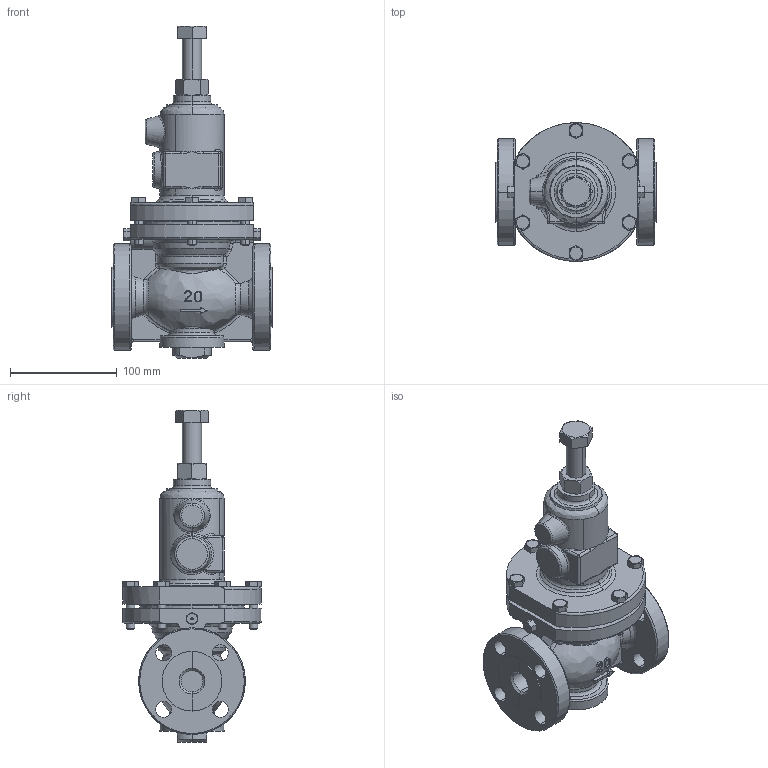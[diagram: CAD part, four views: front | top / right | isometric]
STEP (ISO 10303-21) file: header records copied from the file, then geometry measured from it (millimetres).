
FILE_DESCRIPTION( (''), '2;1');
FILE_NAME ('PC1276.1920.GD-200H 20A_10817.stp','2026-01-15T15:40:12',(''),(''),'spGate 20.6.3 (****-****-****-****)','','');
FILE_SCHEMA (('AUTOMOTIVE_DESIGN'));
Length unit declared in the file: millimetre
Products named in the file (4): Assembly; GD-200(20A)本体P; GD200保護筒15A25A; CP_''_JIS B 1181 六角ナット 2種 上 ''_700
Assembly tree (3 placements, depth 2):
  Assembly
    GD-200(20A)本体P
    GD200保護筒15A25A
    CP_''_JIS B 1181 六角ナット 2種 上 ''_700
Bounding box: 150 x 130.01 x 311.11 mm (x, y, z)
Volume: 1376534.6 mm3; surface area: 177197.5 mm2
Topology: 3 solids, 3 shells, 500 faces, 1261 edges, 785 vertices
Faces by surface type: bspline 201, plane 165, cylinder 127, sphere 7
Entity records: 37051 total; most frequent: CARTESIAN_POINT 16783, ORIENTED_EDGE 2502, COLOUR_RGB 1754, PRESENTATION_STYLE_ASSIGNMENT 1754, STYLED_ITEM 1754, DIRECTION 1745, EDGE_CURVE 1251, DRAUGHTING_PRE_DEFINED_CURVE_FONT 1251
